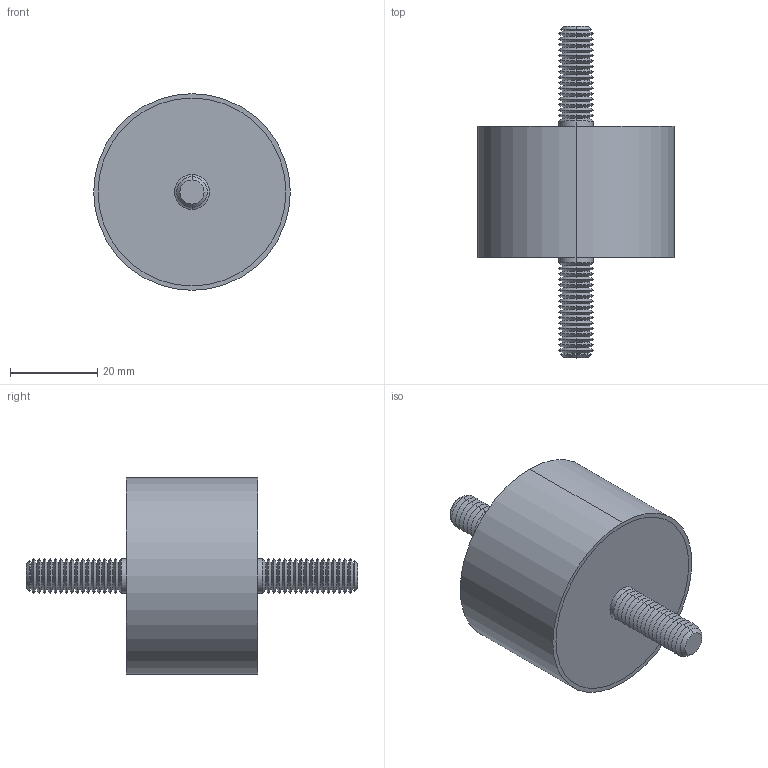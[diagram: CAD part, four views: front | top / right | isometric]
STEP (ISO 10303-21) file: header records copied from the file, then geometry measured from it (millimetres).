
FILE_DESCRIPTION (( 'STEP AP203' ), '1' );
FILE_NAME ('61040.W0451.step', '2019-09-24T22:36:25', ( '' ), ( '' ), 'SwSTEP 2.0', 'SolidWorks 2017', '' );
FILE_SCHEMA (( 'CONFIG_CONTROL_DESIGN' ));
Length unit declared in the file: millimetre
Products named in the file (4): 61040.W0451; Part3_61040.W0451; Part1_61040.W0451; Part2_61040.W0451
Assembly tree (3 placements, depth 2):
  61040.W0451
    Part1_61040.W0451
    Part2_61040.W0451
    Part3_61040.W0451
Bounding box: 45 x 76 x 45 mm (x, y, z)
Volume: 49472.6 mm3; surface area: 15915.6 mm2
Topology: 3 solids, 3 shells, 164 faces, 322 edges, 168 vertices
Faces by surface type: cone 140, cylinder 14, plane 10
Entity records: 4508 total; most frequent: DIRECTION 830, CARTESIAN_POINT 660, ORIENTED_EDGE 644, AXIS2_PLACEMENT_3D 338, EDGE_CURVE 322, CIRCLE 168, VERTEX_POINT 168, EDGE_LOOP 168
